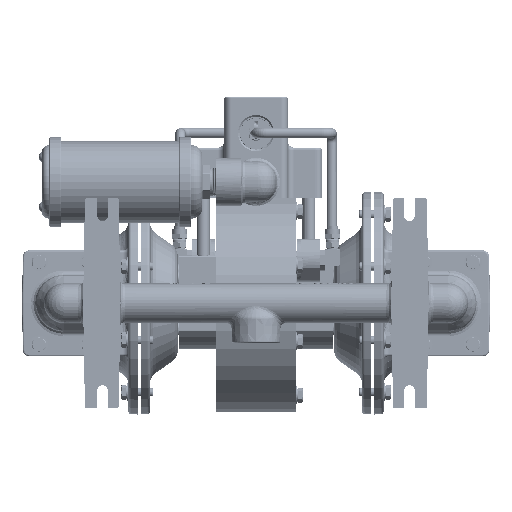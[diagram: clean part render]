
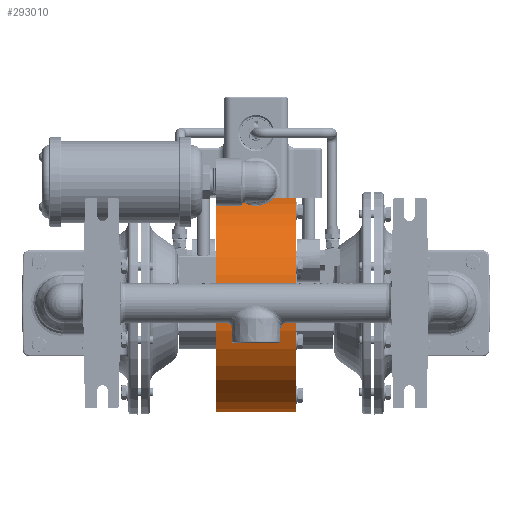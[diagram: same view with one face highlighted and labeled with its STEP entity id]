
A CAD part, front view. The second image highlights one B-rep face of the part: STEP entity #293010.
In plain terms, the highlighted cylindrical face has radius 105.156 mm (diameter 210.312 mm), a partial arc.
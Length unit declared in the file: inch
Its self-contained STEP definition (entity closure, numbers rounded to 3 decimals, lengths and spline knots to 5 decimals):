
#56972=DIRECTION('',(-1.,0.,0.));
#56973=VECTOR('',#56972,3.);
#56974=CARTESIAN_POINT('',(1.5,1.06752,4.));
#56975=LINE('',#56974,#56973);
#56976=CARTESIAN_POINT('',(-1.5,0.,0.));
#56977=DIRECTION('',(-1.,0.,0.));
#56978=DIRECTION('',(0.,0.258,0.966));
#56979=AXIS2_PLACEMENT_3D('',#56976,#56977,#56978);
#56981=DIRECTION('',(-1.,0.,0.));
#56982=VECTOR('',#56981,3.);
#56983=CARTESIAN_POINT('',(1.5,-1.06752,4.));
#56984=LINE('',#56983,#56982);
#56985=CARTESIAN_POINT('',(1.5,0.,0.));
#56986=DIRECTION('',(1.,0.,0.));
#56987=DIRECTION('',(0.,-0.258,0.966));
#56988=AXIS2_PLACEMENT_3D('',#56985,#56986,#56987);
#230547=CARTESIAN_POINT('',(-1.5,-1.06752,4.));
#230549=VERTEX_POINT('',#230547);
#230563=CARTESIAN_POINT('',(-1.5,1.06752,4.));
#230565=VERTEX_POINT('',#230563);
#230832=CARTESIAN_POINT('',(1.5,1.06752,4.));
#230833=VERTEX_POINT('',#230832);
#230834=CARTESIAN_POINT('',(1.5,-1.06752,4.));
#230835=VERTEX_POINT('',#230834);
#292996=CARTESIAN_POINT('',(1.438,0.,0.));
#292997=DIRECTION('',(-1.,0.,0.));
#292998=DIRECTION('',(0.,1.,0.));
#292999=AXIS2_PLACEMENT_3D('',#292996,#292997,#292998);
#293000=CYLINDRICAL_SURFACE('',#292999,4.14);
#293002=ORIENTED_EDGE('',*,*,#293001,.T.);
#293003=ORIENTED_EDGE('',*,*,#292381,.T.);
#293005=ORIENTED_EDGE('',*,*,#293004,.F.);
#293007=ORIENTED_EDGE('',*,*,#293006,.T.);
#293008=EDGE_LOOP('',(#293002,#293003,#293005,#293007));
#293009=FACE_OUTER_BOUND('',#293008,.F.);
#293010=ADVANCED_FACE('',(#293009),#293000,.T.);
#56980=CIRCLE('',#56979,4.14);
#56989=CIRCLE('',#56988,4.14);
#292381=EDGE_CURVE('',#230565,#230549,#56980,.T.);
#293001=EDGE_CURVE('',#230833,#230565,#56975,.T.);
#293004=EDGE_CURVE('',#230835,#230549,#56984,.T.);
#293006=EDGE_CURVE('',#230835,#230833,#56989,.T.);
